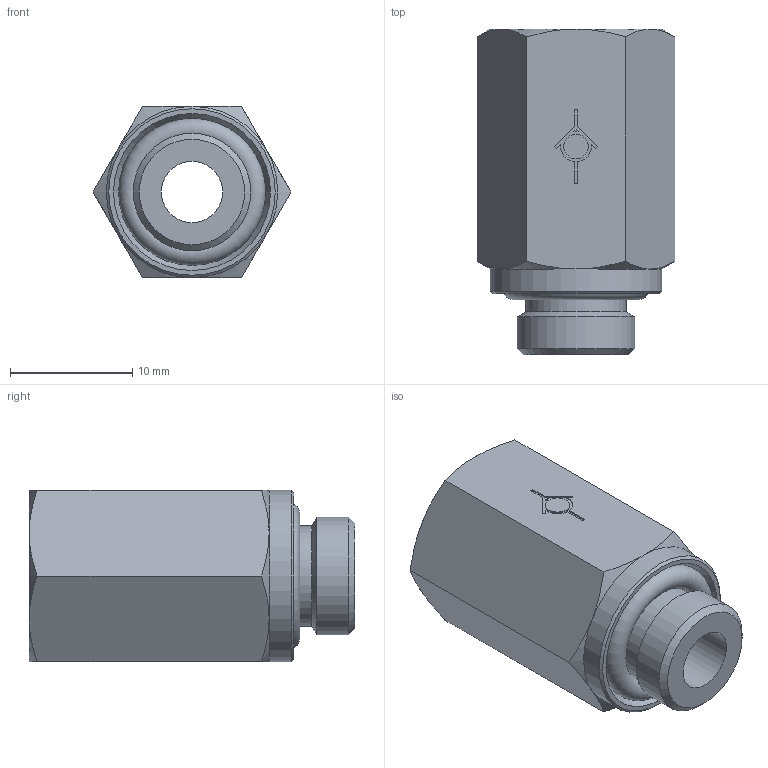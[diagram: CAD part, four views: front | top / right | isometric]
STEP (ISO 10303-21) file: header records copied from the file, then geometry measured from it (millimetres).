
FILE_DESCRIPTION((''),'2;1');
FILE_NAME('D:\INVENTOR\[New Inventor]\CDC Products 3D Ass''y\Check Valves\G\CVPF-G\CVPF G01-G01.stp','2009-02-16T09:15:51',('Microsoft'),(''),'Autodesk Inventor 2008','Autodesk Inventor 2008','');
FILE_SCHEMA(('AUTOMOTIVE_DESIGN { 1 0 10303 214 1 1 1 1 }'));
Length unit declared in the file: millimetre
Products named in the file (1): CVPF G01-G01
Bounding box: 16.17 x 26.6 x 14 mm (x, y, z)
Volume: 2986.6 mm3; surface area: 2281.7 mm2
Topology: 2 solids, 2 shells, 57 faces, 128 edges, 78 vertices
Faces by surface type: plane 29, cone 16, cylinder 10, torus 2
Full cylindrical faces by diameter (mm): 2 x1, 5 x1, 8.2 x2, 9.6 x2, 14 x1
Entity records: 1481 total; most frequent: CARTESIAN_POINT 293, DIRECTION 241, ORIENTED_EDGE 224, EDGE_CURVE 112, AXIS2_PLACEMENT_3D 95, EDGE_LOOP 79, VERTEX_POINT 75, FACE_OUTER_BOUND 57
